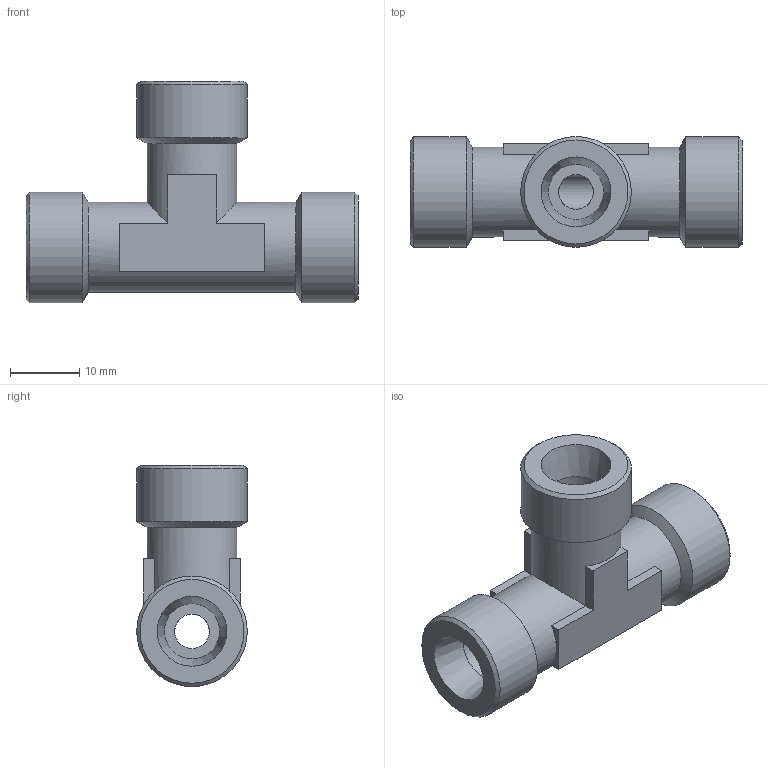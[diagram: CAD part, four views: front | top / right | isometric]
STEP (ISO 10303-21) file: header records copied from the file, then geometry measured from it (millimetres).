
FILE_DESCRIPTION( ( 'Unknown' ), '1' );
FILE_NAME( 'C:/Users/p.nanko/Desktop/3D SR/XT08S.stp', 'Unknown', ( 'Peter Nanko' ), ( 'Armaturen Arndt' ), 'PSStep 14.0', 'Solid Edge ST4', ' ' );
FILE_SCHEMA( ( 'AUTOMOTIVE_DESIGN { 1 0 10303 214 1 1 1 1 }' ) );
Length unit declared in the file: millimetre
Products named in the file (1): 1
Bounding box: 48 x 16 x 32 mm (x, y, z)
Volume: 8648 mm3; surface area: 4873.4 mm2
Topology: 1 solids, 1 shells, 43 faces, 102 edges, 63 vertices
Faces by surface type: plane 24, cylinder 10, cone 9
Full cylindrical faces by diameter (mm): 5 x2, 8 x3, 13 x2, 16 x3
Entity records: 1448 total; most frequent: DIRECTION 198, CARTESIAN_POINT 178, ORIENTED_EDGE 152, AXIS2_PLACEMENT_3D 78, EDGE_CURVE 76, EDGE_LOOP 70, VERTEX_POINT 58, FACE_OUTER_BOUND 53
